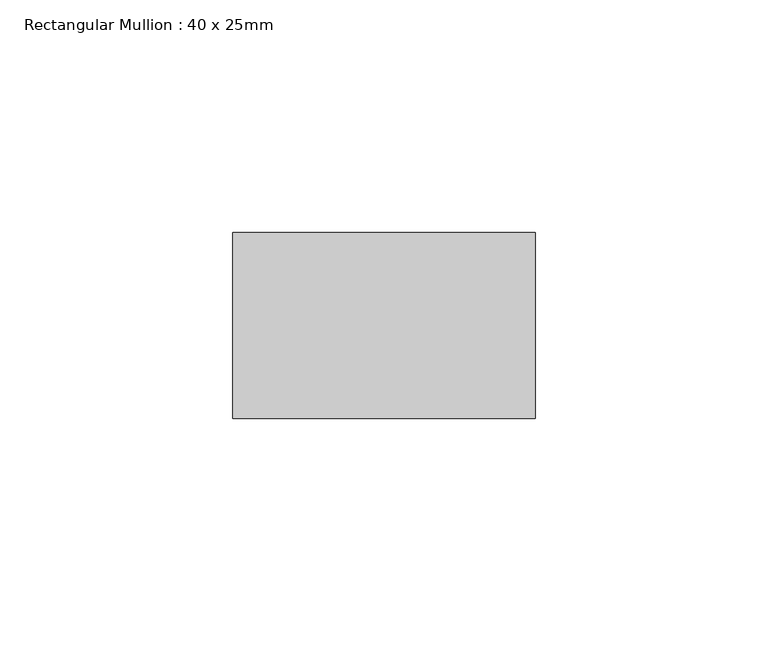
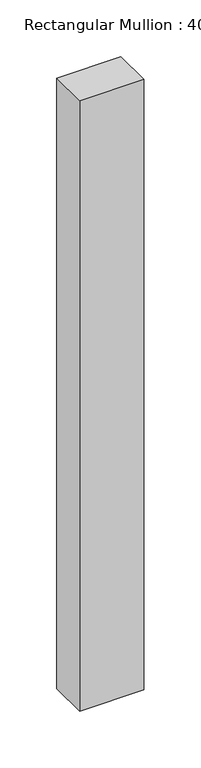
"""IFC4 building model written with IfcOpenShell, lengths in millimetres: member geometry, Rectangular Mullion : 40 x 25mm."""

from ifc_helpers import new_model, si_unit, frame, origin, place, context, project, spatial, polyline, outline, extrude, source, transform, mapped, element, save


def rectangular_mullion_40_x_25mm_6cebd017(model_context):
    return source(origin(), model_context, "Body", "SweptSolid", [
        extrude(outline(polyline([(40.0, -20.0), (40.0, -60.0), (-25.0, -60.0), (-25.0, -20.0), (40.0, -20.0)])), frame((0.0, 0.0, -655.0), z_axis=(0.0, 0.0, 1.0), x_axis=(1.0, 0.0, 0.0)), (0.0, 0.0, 1.0), 655.0),
    ])


if __name__ == "__main__":
    model = new_model("IFC4")
    model_context = context("Model", 3, world=origin())
    ifc_project = project(units=[si_unit("LENGTHUNIT", "METRE", prefix="MILLI")], contexts=[model_context])
    site = spatial("IfcSite", under=ifc_project)
    building = spatial("IfcBuilding", under=site)
    placement = place(None, origin())
    rectangular_mullion_40_x_25mm_shape = rectangular_mullion_40_x_25mm_6cebd017(model_context)
    element("IfcMember", 1, ObjectType="Rectangular Mullion : 40 x 25mm", at=placement, inside=building, context=model_context, shape_type="MappedRepresentation", body=[
        mapped(rectangular_mullion_40_x_25mm_shape, transform((0.0, 0.0, 0.0), x_axis=(1.0, 0.0, 0.0), y_axis=(0.0, 1.0, 0.0), z_axis=(0.0, 0.0, 1.0))),
    ])
    save(model, "model.ifc")
